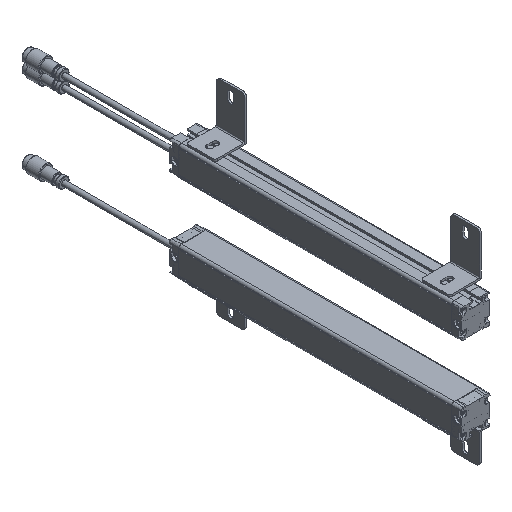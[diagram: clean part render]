
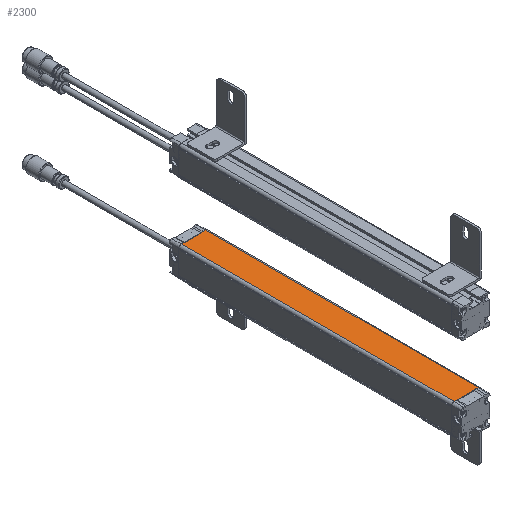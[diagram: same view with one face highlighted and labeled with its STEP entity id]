
A CAD part, isometric view. The second image highlights one B-rep face of the part: STEP entity #2300.
In plain terms, the highlighted planar face has unit normal (0, 0, 1).
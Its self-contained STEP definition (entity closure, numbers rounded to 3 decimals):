
#1164=PLANE('',#24261);
#2300=ADVANCED_FACE('',(#3785),#1164,.T.);
#3785=FACE_OUTER_BOUND('',#4989,.T.);
#4989=EDGE_LOOP('',(#13641,#13642,#13643,#13644));
#6792=LINE('',#35858,#9188);
#6793=LINE('',#35861,#9189);
#6794=LINE('',#35863,#9190);
#6795=LINE('',#35865,#9191);
#9188=VECTOR('',#28234,1.);
#9189=VECTOR('',#28235,1.);
#9190=VECTOR('',#28236,1.);
#9191=VECTOR('',#28237,1.);
#13641=ORIENTED_EDGE('',*,*,#20981,.T.);
#13642=ORIENTED_EDGE('',*,*,#20982,.T.);
#13643=ORIENTED_EDGE('',*,*,#20983,.T.);
#13644=ORIENTED_EDGE('',*,*,#20984,.T.);
#18218=VERTEX_POINT('',#35859);
#18219=VERTEX_POINT('',#35860);
#18220=VERTEX_POINT('',#35862);
#18221=VERTEX_POINT('',#35864);
#20981=EDGE_CURVE('',#18218,#18219,#6792,.T.);
#20982=EDGE_CURVE('',#18219,#18220,#6793,.T.);
#20983=EDGE_CURVE('',#18220,#18221,#6794,.T.);
#20984=EDGE_CURVE('',#18221,#18218,#6795,.T.);
#24261=AXIS2_PLACEMENT_3D('',#35866,#28238,#28239);
#28234=DIRECTION('',(1.,0.,0.));
#28235=DIRECTION('',(0.,1.,0.));
#28236=DIRECTION('',(-1.,0.,0.));
#28237=DIRECTION('',(0.,-1.,0.));
#28238=DIRECTION('',(0.,0.,1.));
#28239=DIRECTION('',(1.,0.,0.));
#35858=CARTESIAN_POINT('',(-15.2,-25.,15.65));
#35859=CARTESIAN_POINT('',(-12.7,-25.,15.65));
#35860=CARTESIAN_POINT('',(12.7,-25.,15.65));
#35861=CARTESIAN_POINT('',(12.7,0.,15.65));
#35862=CARTESIAN_POINT('',(12.7,260.,15.65));
#35863=CARTESIAN_POINT('',(-15.2,260.,15.65));
#35864=CARTESIAN_POINT('',(-12.7,260.,15.65));
#35865=CARTESIAN_POINT('',(-12.7,0.,15.65));
#35866=CARTESIAN_POINT('',(-15.2,0.,15.65));
